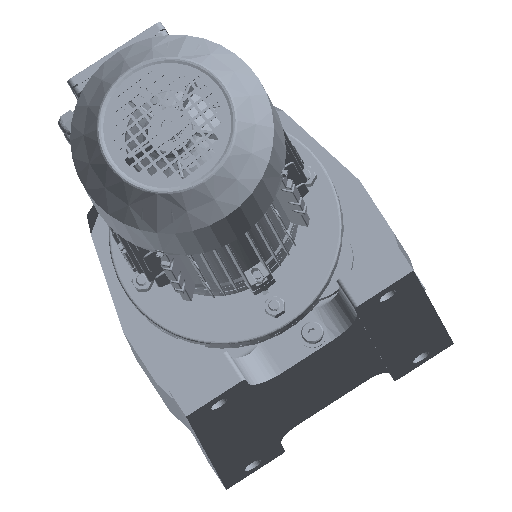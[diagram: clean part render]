
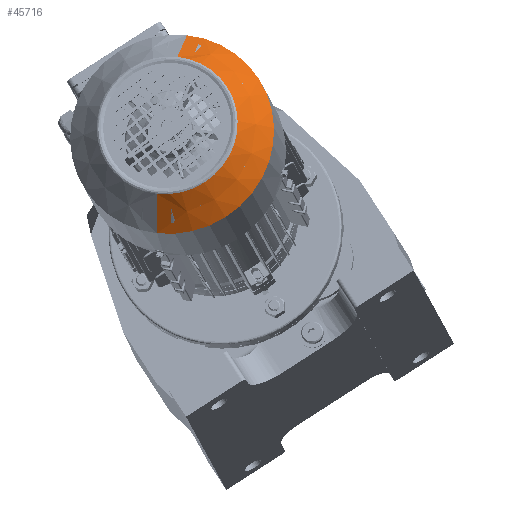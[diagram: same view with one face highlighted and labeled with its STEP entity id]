
A CAD part, top view. The second image highlights one B-rep face of the part: STEP entity #45716.
In plain terms, the highlighted conical face has half-angle 42 degrees and reference radius 87.55 mm.
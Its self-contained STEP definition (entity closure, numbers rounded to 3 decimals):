
#5508 = EDGE_CURVE ( 'NONE', #32147, #32352, #13884, .T. ) ;
#5765 = EDGE_CURVE ( 'NONE', #32480, #32234, #14071, .T. ) ;
#5801 = EDGE_CURVE ( 'NONE', #32234, #32244, #14158, .T. ) ;
#5919 = EDGE_CURVE ( 'NONE', #32427, #32244, #14113, .T. ) ;
#5924 = EDGE_CURVE ( 'NONE', #32147, #32480, #14107, .T. ) ;
#5950 = EDGE_CURVE ( 'NONE', #32352, #32427, #14291, .T. ) ;
#6464 = AXIS2_PLACEMENT_3D ( 'NONE', #26372, #26360, #26306 ) ;
#6594 = AXIS2_PLACEMENT_3D ( 'NONE', #25388, #25344, #25327 ) ;
#6634 = AXIS2_PLACEMENT_3D ( 'NONE', #26491, #26493, #26396 ) ;
#6684 = AXIS2_PLACEMENT_3D ( 'NONE', #26299, #26351, #26333 ) ;
#13745 = VECTOR ( 'NONE', #22913, 1000. ) ;
#13884 = LINE ( 'NONE', #22961, #13745 ) ;
#14071 = CIRCLE ( 'NONE', #6594, 60.531 ) ;
#14107 = CIRCLE ( 'NONE', #6464, 60.531 ) ;
#14113 = CIRCLE ( 'NONE', #6684, 87.55 ) ;
#14131 = VECTOR ( 'NONE', #25461, 1000. ) ;
#14158 = LINE ( 'NONE', #25425, #14131 ) ;
#14291 = CIRCLE ( 'NONE', #6634, 87.55 ) ;
#16472 = ORIENTED_EDGE ( 'NONE', *, *, #5801, .T. ) ;
#16483 = ORIENTED_EDGE ( 'NONE', *, *, #5950, .F. ) ;
#16496 = ORIENTED_EDGE ( 'NONE', *, *, #5765, .T. ) ;
#16562 = ORIENTED_EDGE ( 'NONE', *, *, #5919, .F. ) ;
#16610 = ORIENTED_EDGE ( 'NONE', *, *, #5924, .T. ) ;
#16629 = ORIENTED_EDGE ( 'NONE', *, *, #5508, .F. ) ;
#22913 = DIRECTION ( 'NONE',  ( -0.743, -0.669, 0. ) ) ;
#22961 = CARTESIAN_POINT ( 'NONE',  ( 21.6, -87.55, 0. ) ) ;
#25327 = DIRECTION ( 'NONE',  ( 0., -1., 0. ) ) ;
#25344 = DIRECTION ( 'NONE',  ( -1., 0., 0. ) ) ;
#25388 = CARTESIAN_POINT ( 'NONE',  ( 51.607, 0., 0. ) ) ;
#25425 = CARTESIAN_POINT ( 'NONE',  ( 21.6, 87.55, 0. ) ) ;
#25461 = DIRECTION ( 'NONE',  ( -0.743, 0.669, 0. ) ) ;
#26299 = CARTESIAN_POINT ( 'NONE',  ( 21.6, 0., 0. ) ) ;
#26306 = DIRECTION ( 'NONE',  ( 0., -1., 0. ) ) ;
#26333 = DIRECTION ( 'NONE',  ( 0., 0., 1. ) ) ;
#26351 = DIRECTION ( 'NONE',  ( -1., 0., 0. ) ) ;
#26360 = DIRECTION ( 'NONE',  ( -1., 0., 0. ) ) ;
#26372 = CARTESIAN_POINT ( 'NONE',  ( 51.607, 0., 0. ) ) ;
#26396 = DIRECTION ( 'NONE',  ( 0., 0., 1. ) ) ;
#26491 = CARTESIAN_POINT ( 'NONE',  ( 21.6, 0., 0. ) ) ;
#26493 = DIRECTION ( 'NONE',  ( -1., 0., 0. ) ) ;
#32147 = VERTEX_POINT ( 'NONE', #131245 ) ;
#32234 = VERTEX_POINT ( 'NONE', #131278 ) ;
#32244 = VERTEX_POINT ( 'NONE', #131259 ) ;
#32352 = VERTEX_POINT ( 'NONE', #131344 ) ;
#32427 = VERTEX_POINT ( 'NONE', #131319 ) ;
#32480 = VERTEX_POINT ( 'NONE', #131337 ) ;
#45716 = ADVANCED_FACE ( 'NONE', ( #166753 ), #166732, .T. ) ;
#82150 = DIRECTION ( 'NONE',  ( -1., 0., 0. ) ) ;
#82167 = DIRECTION ( 'NONE',  ( 0., -1., 0. ) ) ;
#82188 = CARTESIAN_POINT ( 'NONE',  ( 21.6, 0., 0. ) ) ;
#101385 = EDGE_LOOP ( 'NONE', ( #16496, #16472, #16562, #16483, #16629, #16610 ) ) ;
#130124 = AXIS2_PLACEMENT_3D ( 'NONE', #82188, #82150, #82167 ) ;
#131245 = CARTESIAN_POINT ( 'NONE',  ( 51.607, -60.531, 0. ) ) ;
#131259 = CARTESIAN_POINT ( 'NONE',  ( 21.6, 87.55, 0. ) ) ;
#131278 = CARTESIAN_POINT ( 'NONE',  ( 51.607, 60.531, 0. ) ) ;
#131319 = CARTESIAN_POINT ( 'NONE',  ( 21.6, 0., 87.55 ) ) ;
#131337 = CARTESIAN_POINT ( 'NONE',  ( 51.607, 0., 60.531 ) ) ;
#131344 = CARTESIAN_POINT ( 'NONE',  ( 21.6, -87.55, 0. ) ) ;
#166732 = CONICAL_SURFACE ( 'NONE', #130124, 87.55, 0.733 ) ;
#166753 = FACE_OUTER_BOUND ( 'NONE', #101385, .T. ) ;
